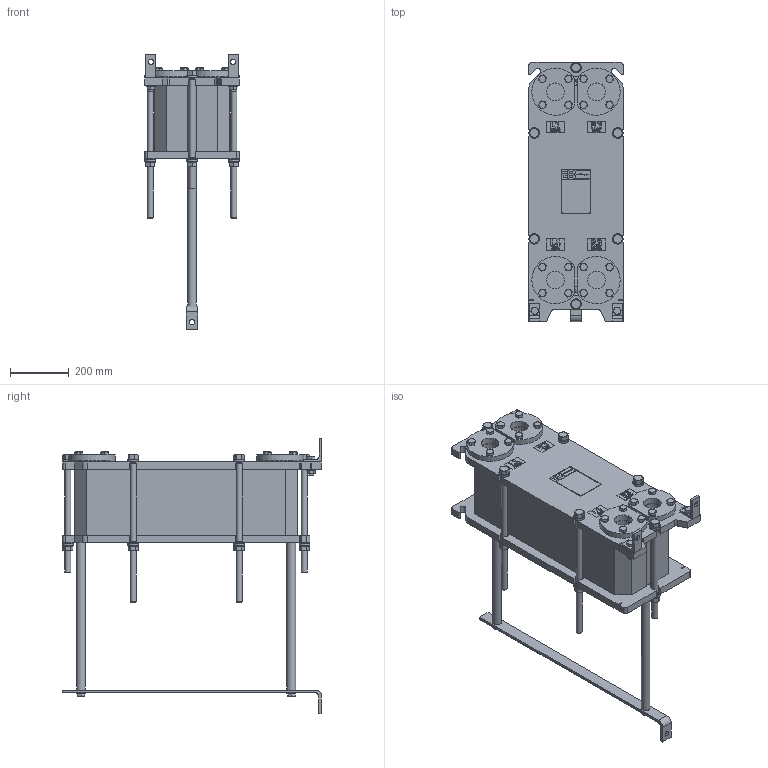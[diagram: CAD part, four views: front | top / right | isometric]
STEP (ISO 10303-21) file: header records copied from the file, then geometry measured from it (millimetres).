
FILE_DESCRIPTION (( 'STEP AP214' ), '1' );
FILE_NAME ('ÏÒ SX50 ðåä 4 ê ñèãìà 71...110.STEP', '2021-04-03T22:07:23', ( '' ), ( '' ), 'SwSTEP 2.0', 'SolidWorks 2018', '' );
FILE_SCHEMA (( 'AUTOMOTIVE_DESIGN' ));
Length unit declared in the file: millimetre
Products named in the file (3): ÏÒ SX50 ðåä 4 ê ñèãìà2 71...110; ÏÒ SX50 ðåä 4 ê ñèãìà 71...110; ÏÒ SX50 ðåä 4 ê ñèãìà1
Assembly tree (2 placements, depth 2):
  ÏÒ SX50 ðåä 4 ê ñèãìà 71...110
    ÏÒ SX50 ðåä 4 ê ñèãìà2 71...110
    ÏÒ SX50 ðåä 4 ê ñèãìà1
Bounding box: 320 x 880 x 935 mm (x, y, z)
Volume: 56608010.6 mm3; surface area: 2986374 mm2
Topology: 28 solids, 34 shells, 2016 faces, 4908 edges, 3139 vertices
Faces by surface type: plane 1036, cone 430, bspline 275, cylinder 241, torus 34
Full cylindrical faces by diameter (mm): 16 x44, 17 x4, 18 x25, 20 x12, 21 x12, 27 x12, 29.48 x2, 30 x8, 36 x12, 60 x8, 60.01 x4, 60.2 x4, 72.4 x4
Entity records: 89000 total; most frequent: CARTESIAN_POINT 23698, ORIENTED_EDGE 9012, DIRECTION 7808, EDGE_CURVE 4506, VERTEX_POINT 3052, AXIS2_PLACEMENT_3D 2706, EDGE_LOOP 2616, VECTOR 2396
